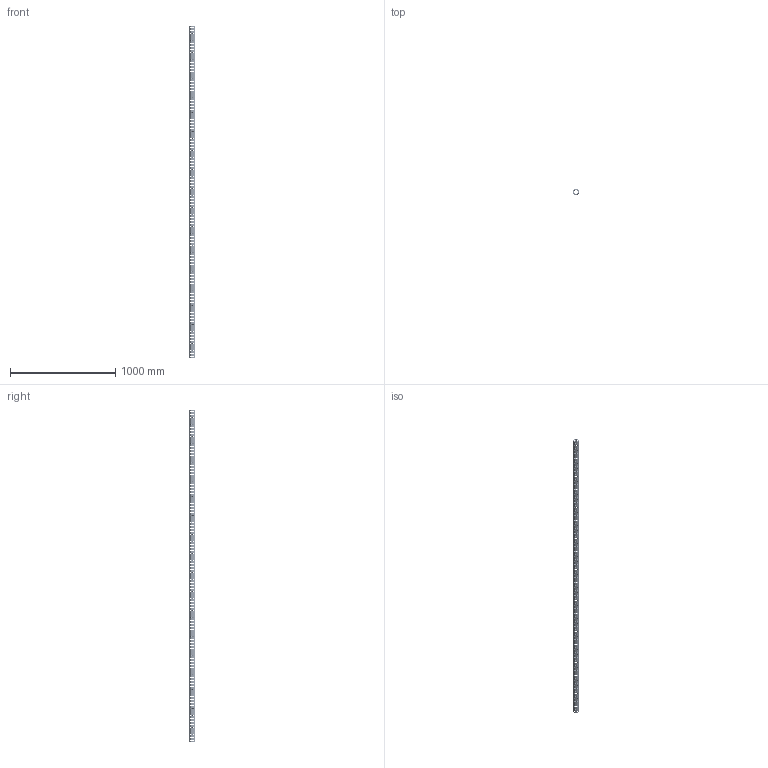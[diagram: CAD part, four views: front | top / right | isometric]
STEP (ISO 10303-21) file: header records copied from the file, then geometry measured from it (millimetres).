
FILE_DESCRIPTION(('CATIA V5 STEP Exchange'),'2;1');
FILE_NAME('U:\Room\唐宝山\EGT002\46-01-010334-01-EGT002-3148.stp','2021-08-24T07:19:48+00:00',('none'),('none'),'CATIA Version 5 Release 21 GA (IN-10)','CATIA V5 STEP AP203','none');
FILE_SCHEMA(('CONFIG_CONTROL_DESIGN'));
Products named in the file (1): 46-01-010334-01-EGT002-3148
Bounding box: 50 x 50 x 3148 mm (x, y, z)
Volume: 2243074.6 mm3; surface area: 1080381.9 mm2
Topology: 1 solids, 1 shells, 4284 faces, 11796 edges, 7304 vertices
Faces by surface type: cone 2520, cylinder 1738, plane 26
Entity records: 182401 total; most frequent: CARTESIAN_POINT 79392, ORIENTED_EDGE 23592, DIRECTION 16338, EDGE_CURVE 11796, AXIS2_PLACEMENT_3D 7515, VERTEX_POINT 7304, EDGE_LOOP 5756, VECTOR 4540
